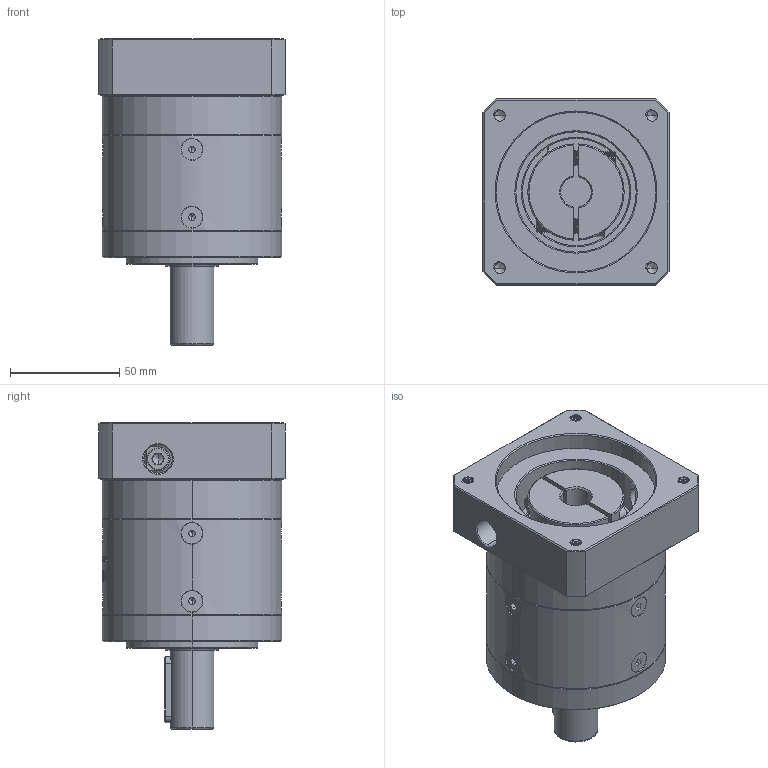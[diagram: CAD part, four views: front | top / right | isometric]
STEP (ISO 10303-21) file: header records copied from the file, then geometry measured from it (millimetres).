
FILE_DESCRIPTION (( 'STEP AP214' ), '1' );
FILE_NAME ('ZE80-D20-L1-14-73-69.5X69.5-M6.step', '2022-05-08T05:50:08', ( '' ), ( 'Microsoft' ), 'SwSTEP 2.0', 'SolidWorks 2016', '' );
FILE_SCHEMA (( 'AUTOMOTIVE_DESIGN' ));
Length unit declared in the file: millimetre
Products named in the file (1): ZE80-D20-L1-14-73-69.5X69.5-M6
Bounding box: 85 x 85 x 140 mm (x, y, z)
Volume: 517425.2 mm3; surface area: 85415.6 mm2
Topology: 13 solids, 13 shells, 2065 faces, 5381 edges, 3405 vertices
Faces by surface type: plane 891, cylinder 500, bspline 332, cone 325, torus 17
Entity records: 118431 total; most frequent: CARTESIAN_POINT 49411, ORIENTED_EDGE 10686, DIRECTION 8213, EDGE_CURVE 5343, VERTEX_POINT 3405, LINE 2861, VECTOR 2861, AXIS2_PLACEMENT_3D 2676
